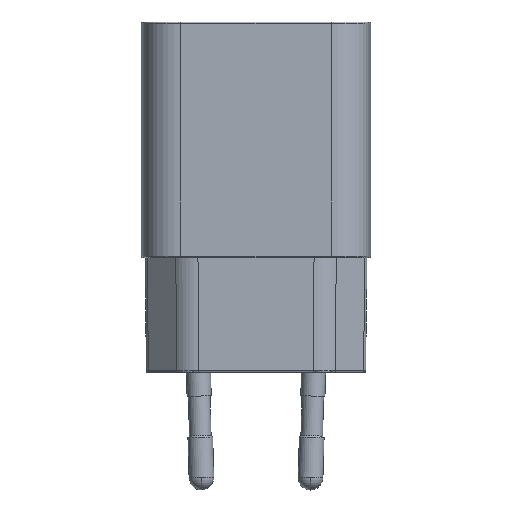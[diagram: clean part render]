
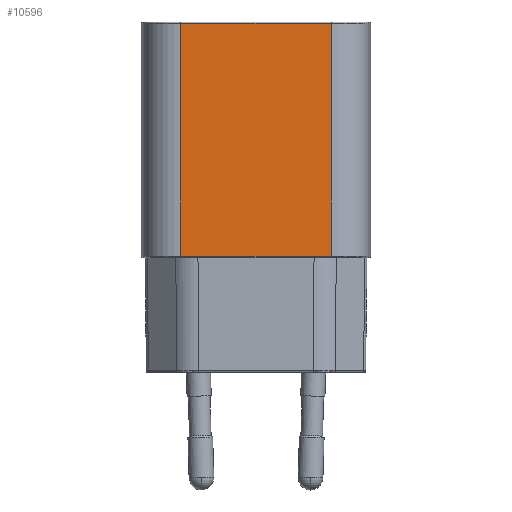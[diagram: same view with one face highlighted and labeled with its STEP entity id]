
A CAD part, top view. The second image highlights one B-rep face of the part: STEP entity #10596.
In plain terms, the highlighted planar face has unit normal (0, 0, 1).
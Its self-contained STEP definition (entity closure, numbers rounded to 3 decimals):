
#307=DIRECTION('',(-1.,0.,0.));
#308=VECTOR('',#307,24.366);
#309=CARTESIAN_POINT('',(12.183,4.3,11.));
#310=LINE('',#309,#308);
#330=DIRECTION('',(0.,1.,0.));
#331=VECTOR('',#330,37.6);
#332=CARTESIAN_POINT('',(12.183,-33.3,11.));
#333=LINE('',#332,#331);
#353=DIRECTION('',(1.,0.,0.));
#354=VECTOR('',#353,24.366);
#355=CARTESIAN_POINT('',(-12.183,-33.3,11.));
#356=LINE('',#355,#354);
#419=DIRECTION('',(0.,-1.,0.));
#420=VECTOR('',#419,37.6);
#421=CARTESIAN_POINT('',(-12.183,4.3,11.));
#422=LINE('',#421,#420);
#8185=CARTESIAN_POINT('',(-12.183,4.3,11.));
#8186=VERTEX_POINT('',#8185);
#8187=CARTESIAN_POINT('',(12.183,4.3,11.));
#8188=VERTEX_POINT('',#8187);
#8189=CARTESIAN_POINT('',(12.183,-33.3,11.));
#8190=VERTEX_POINT('',#8189);
#8191=CARTESIAN_POINT('',(-12.183,-33.3,11.));
#8192=VERTEX_POINT('',#8191);
#10585=CARTESIAN_POINT('',(-18.5,-33.5,11.));
#10586=DIRECTION('',(0.,0.,1.));
#10587=DIRECTION('',(1.,0.,0.));
#10588=AXIS2_PLACEMENT_3D('',#10585,#10586,#10587);
#10589=PLANE('',#10588);
#10590=ORIENTED_EDGE('',*,*,#10420,.F.);
#10591=ORIENTED_EDGE('',*,*,#10448,.F.);
#10592=ORIENTED_EDGE('',*,*,#10474,.F.);
#10593=ORIENTED_EDGE('',*,*,#10578,.F.);
#10594=EDGE_LOOP('',(#10590,#10591,#10592,#10593));
#10595=FACE_OUTER_BOUND('',#10594,.F.);
#10596=ADVANCED_FACE('',(#10595),#10589,.T.);
#10420=EDGE_CURVE('',#8188,#8186,#310,.T.);
#10448=EDGE_CURVE('',#8190,#8188,#333,.T.);
#10474=EDGE_CURVE('',#8192,#8190,#356,.T.);
#10578=EDGE_CURVE('',#8186,#8192,#422,.T.);
